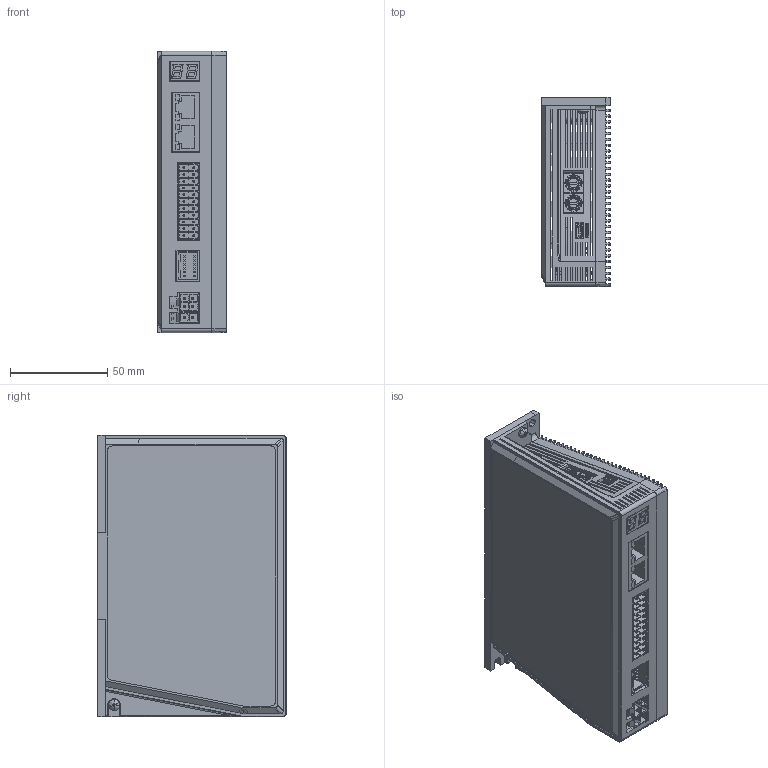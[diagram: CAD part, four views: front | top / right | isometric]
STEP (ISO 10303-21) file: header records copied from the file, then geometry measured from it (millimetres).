
FILE_DESCRIPTION(/* description */ (''),/* implementation_level */ '2;1');
FILE_NAME(/* name */ 'DP3C-305+705+808-官网图',/* time_stamp */ '2021-12-17T11:37:38+08:00',/* author */ (''),/* organization */ (''),/* preprocessor_version */ 'ST-DEVELOPER v15',/* originating_system */ '',/* authorisation */ '');
FILE_SCHEMA (('AUTOMOTIVE_DESIGN'));
Products named in the file (1): Document
Bounding box: 35.5 x 97.3 x 145 mm (x, y, z)
Surface area: 120817.8 mm2 (no closed solid volume)
Topology: 0 solids, 8428 shells, 8428 faces, 48630 edges, 48616 vertices
Faces by surface type: plane 7827, bspline 601
Entity records: 441795 total; most frequent: CARTESIAN_POINT 174572, ORIENTED_EDGE 48620, EDGE_CURVE 48620, VERTEX_POINT 48618, B_SPLINE_CURVE_WITH_KNOTS 46452, EDGE_LOOP 8841, PRESENTATION_LAYER_ASSIGNMENT 8428, SHELL_BASED_SURFACE_MODEL 8428
